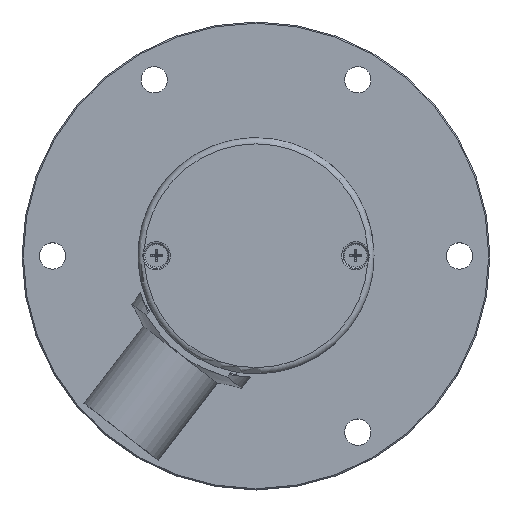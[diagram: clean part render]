
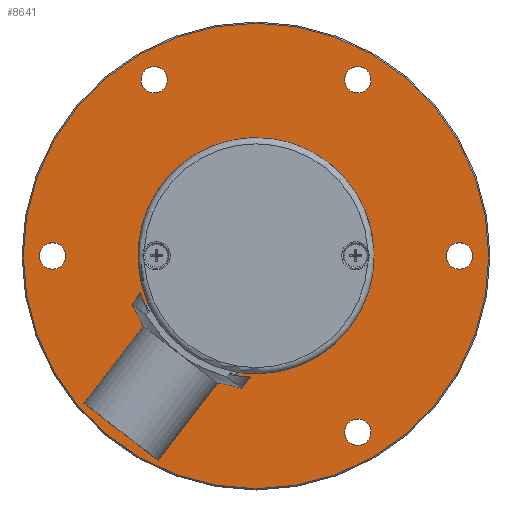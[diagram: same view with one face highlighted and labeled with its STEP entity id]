
A CAD part, top view. The second image highlights one B-rep face of the part: STEP entity #8641.
In plain terms, the highlighted planar face has unit normal (0, 0, 1).
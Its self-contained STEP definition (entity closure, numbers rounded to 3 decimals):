
#8513=CARTESIAN_POINT('',(57.2,0.,11.0));
#8514=VERTEX_POINT('',#8513);
#8515=CARTESIAN_POINT('',(0.0,0.0,11.0));
#8516=DIRECTION('',(0.0,0.0,-1.0));
#8517=DIRECTION('',(-1.0,0.0,0.0));
#8518=AXIS2_PLACEMENT_3D('',#8515,#8516,#8517);
#8519=CIRCLE('',#8518,57.2);
#8520=EDGE_CURVE('',#8514,#8514,#8519,.T.);
#8556=CARTESIAN_POINT('',(0.0,0.0,11.0));
#8557=DIRECTION('',(0.0,0.0,-1.0));
#8558=DIRECTION('',(-1.0,0.0,0.0));
#8559=AXIS2_PLACEMENT_3D('',#8556,#8557,#8558);
#8560=PLANE('',#8559);
#8561=ORIENTED_EDGE('',*,*,#8520,.F.);
#8562=EDGE_LOOP('',(#8561));
#8563=FACE_OUTER_BOUND('',#8562,.T.);
#8564=CARTESIAN_POINT('',(29.,0.,11.0));
#8565=VERTEX_POINT('',#8564);
#8566=CARTESIAN_POINT('',(0.0,0.0,11.0));
#8567=DIRECTION('',(0.0,0.0,1.0));
#8568=DIRECTION('',(-1.0,0.0,0.0));
#8569=AXIS2_PLACEMENT_3D('',#8566,#8567,#8568);
#8570=CIRCLE('',#8569,29.);
#8571=EDGE_CURVE('',#8565,#8565,#8570,.T.);
#8572=ORIENTED_EDGE('',*,*,#8571,.F.);
#8573=EDGE_LOOP('',(#8572));
#8574=FACE_BOUND('',#8573,.T.);
#8575=CARTESIAN_POINT('',(-21.75,43.301,11.0));
#8576=VERTEX_POINT('',#8575);
#8577=CARTESIAN_POINT('',(-25.,43.301,11.));
#8578=DIRECTION('',(0.0,0.0,-1.0));
#8579=DIRECTION('',(1.0,0.0,0.0));
#8580=AXIS2_PLACEMENT_3D('',#8577,#8578,#8579);
#8581=CIRCLE('',#8580,3.25);
#8582=EDGE_CURVE('',#8576,#8576,#8581,.T.);
#8583=ORIENTED_EDGE('',*,*,#8582,.T.);
#8584=EDGE_LOOP('',(#8583));
#8585=FACE_BOUND('',#8584,.T.);
#8586=CARTESIAN_POINT('',(-48.375,2.815,11.0));
#8587=VERTEX_POINT('',#8586);
#8588=CARTESIAN_POINT('',(-50.0,0.,11.));
#8589=DIRECTION('',(0.0,0.0,-1.0));
#8590=DIRECTION('',(0.5,0.866,0.0));
#8591=AXIS2_PLACEMENT_3D('',#8588,#8589,#8590);
#8592=CIRCLE('',#8591,3.25);
#8593=EDGE_CURVE('',#8587,#8587,#8592,.T.);
#8594=ORIENTED_EDGE('',*,*,#8593,.T.);
#8595=EDGE_LOOP('',(#8594));
#8596=FACE_BOUND('',#8595,.T.);
#8597=CARTESIAN_POINT('',(-26.625,-40.487,11.0));
#8598=VERTEX_POINT('',#8597);
#8599=CARTESIAN_POINT('',(-25.0,-43.301,11.));
#8600=DIRECTION('',(0.0,0.0,-1.0));
#8601=DIRECTION('',(-0.5,0.866,0.0));
#8602=AXIS2_PLACEMENT_3D('',#8599,#8600,#8601);
#8603=CIRCLE('',#8602,3.25);
#8604=EDGE_CURVE('',#8598,#8598,#8603,.T.);
#8605=ORIENTED_EDGE('',*,*,#8604,.T.);
#8606=EDGE_LOOP('',(#8605));
#8607=FACE_BOUND('',#8606,.T.);
#8608=CARTESIAN_POINT('',(21.75,-43.301,11.0));
#8609=VERTEX_POINT('',#8608);
#8610=CARTESIAN_POINT('',(25.,-43.301,11.));
#8611=DIRECTION('',(0.0,0.0,-1.0));
#8612=DIRECTION('',(-1.0,0.0,0.0));
#8613=AXIS2_PLACEMENT_3D('',#8610,#8611,#8612);
#8614=CIRCLE('',#8613,3.25);
#8615=EDGE_CURVE('',#8609,#8609,#8614,.T.);
#8616=ORIENTED_EDGE('',*,*,#8615,.T.);
#8617=EDGE_LOOP('',(#8616));
#8618=FACE_BOUND('',#8617,.T.);
#8619=CARTESIAN_POINT('',(48.375,-2.815,11.0));
#8620=VERTEX_POINT('',#8619);
#8621=CARTESIAN_POINT('',(50.0,0.,11.));
#8622=DIRECTION('',(0.0,0.0,-1.0));
#8623=DIRECTION('',(-0.5,-0.866,0.0));
#8624=AXIS2_PLACEMENT_3D('',#8621,#8622,#8623);
#8625=CIRCLE('',#8624,3.25);
#8626=EDGE_CURVE('',#8620,#8620,#8625,.T.);
#8627=ORIENTED_EDGE('',*,*,#8626,.T.);
#8628=EDGE_LOOP('',(#8627));
#8629=FACE_BOUND('',#8628,.T.);
#8630=CARTESIAN_POINT('',(26.625,40.487,11.0));
#8631=VERTEX_POINT('',#8630);
#8632=CARTESIAN_POINT('',(25.,43.301,11.));
#8633=DIRECTION('',(0.0,0.0,-1.0));
#8634=DIRECTION('',(0.5,-0.866,0.0));
#8635=AXIS2_PLACEMENT_3D('',#8632,#8633,#8634);
#8636=CIRCLE('',#8635,3.25);
#8637=EDGE_CURVE('',#8631,#8631,#8636,.T.);
#8638=ORIENTED_EDGE('',*,*,#8637,.T.);
#8639=EDGE_LOOP('',(#8638));
#8640=FACE_BOUND('',#8639,.T.);
#8641=ADVANCED_FACE('',(#8563,#8574,#8585,#8596,#8607,#8618,#8629,#8640),#8560,.F.);
